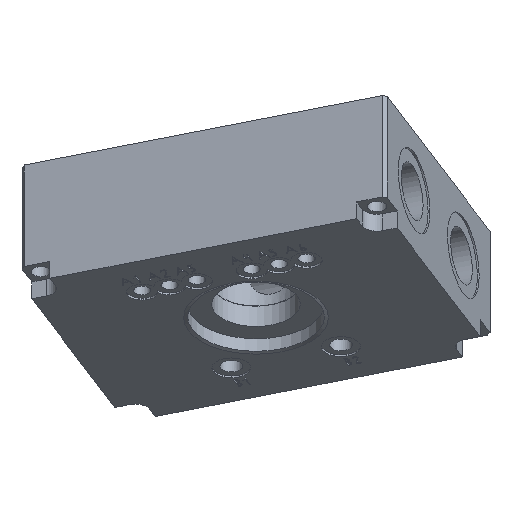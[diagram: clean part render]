
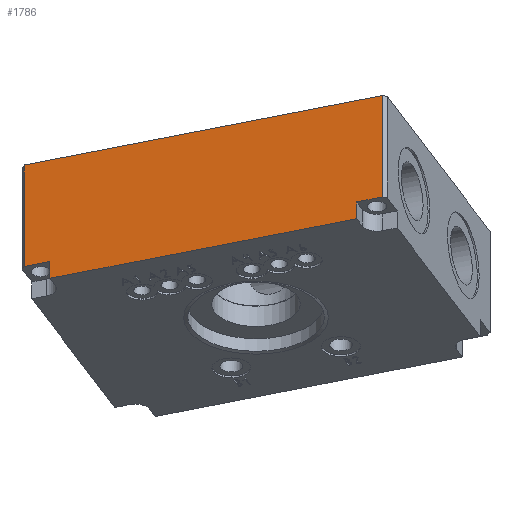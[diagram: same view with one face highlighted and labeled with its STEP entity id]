
A CAD part, top view. The second image highlights one B-rep face of the part: STEP entity #1786.
In plain terms, the highlighted planar face has unit normal (-0.359, 0.469, 0.807).
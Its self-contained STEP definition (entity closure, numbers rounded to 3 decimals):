
#47=CARTESIAN_POINT('',(903.288,186.817,355.398));
#48=VERTEX_POINT('',#47);
#163=CARTESIAN_POINT('',(1060.079,217.145,407.559));
#164=VERTEX_POINT('',#163);
#171=CARTESIAN_POINT('',(903.288,186.817,355.398));
#172=DIRECTION('',(0.933,0.181,0.31));
#173=VECTOR('',#172,1.);
#174=LINE('',#171,#173);
#175=EDGE_CURVE('',#48,#164,#174,.T.);
#1393=CARTESIAN_POINT('',(890.222,192.935,346.025));
#1394=VERTEX_POINT('',#1393);
#1401=CARTESIAN_POINT('',(890.222,244.805,315.867));
#1402=VERTEX_POINT('',#1401);
#1403=CARTESIAN_POINT('',(890.222,244.805,315.867));
#1404=DIRECTION('',(0.0,-0.864,0.503));
#1405=VECTOR('',#1404,1.);
#1406=LINE('',#1403,#1405);
#1407=EDGE_CURVE('',#1402,#1394,#1406,.T.);
#1519=CARTESIAN_POINT('',(1073.145,228.317,406.879));
#1520=VERTEX_POINT('',#1519);
#1521=CARTESIAN_POINT('',(1073.145,280.187,376.721));
#1522=VERTEX_POINT('',#1521);
#1523=CARTESIAN_POINT('',(1073.145,228.317,406.879));
#1524=DIRECTION('',(0.0,0.864,-0.503));
#1525=VECTOR('',#1524,1.);
#1526=LINE('',#1523,#1525);
#1527=EDGE_CURVE('',#1520,#1522,#1526,.T.);
#1742=CARTESIAN_POINT('',(1082.291,218.415,416.707));
#1743=DIRECTION('',(0.359,-0.469,-0.807));
#1744=DIRECTION('',(-0.933,-0.181,-0.31));
#1745=AXIS2_PLACEMENT_3D('',#1742,#1743,#1744);
#1746=PLANE('',#1745);
#1747=CARTESIAN_POINT('',(903.288,195.462,350.372));
#1748=VERTEX_POINT('',#1747);
#1749=CARTESIAN_POINT('',(903.288,195.462,350.372));
#1750=DIRECTION('',(-0.933,-0.181,-0.31));
#1751=VECTOR('',#1750,1.);
#1752=LINE('',#1749,#1751);
#1753=EDGE_CURVE('',#1748,#1394,#1752,.T.);
#1754=ORIENTED_EDGE('',*,*,#1753,.F.);
#1755=CARTESIAN_POINT('',(903.288,195.462,350.372));
#1756=DIRECTION('',(0.0,-0.864,0.503));
#1757=VECTOR('',#1756,1.);
#1758=LINE('',#1755,#1757);
#1759=EDGE_CURVE('',#1748,#48,#1758,.T.);
#1760=ORIENTED_EDGE('',*,*,#1759,.T.);
#1761=ORIENTED_EDGE('',*,*,#175,.T.);
#1762=CARTESIAN_POINT('',(1060.079,225.79,402.532));
#1763=VERTEX_POINT('',#1762);
#1764=CARTESIAN_POINT('',(1060.079,225.79,402.532));
#1765=DIRECTION('',(0.0,-0.864,0.503));
#1766=VECTOR('',#1765,1.);
#1767=LINE('',#1764,#1766);
#1768=EDGE_CURVE('',#1763,#164,#1767,.T.);
#1769=ORIENTED_EDGE('',*,*,#1768,.F.);
#1770=CARTESIAN_POINT('',(1073.145,228.317,406.879));
#1771=DIRECTION('',(-0.933,-0.181,-0.31));
#1772=VECTOR('',#1771,1.);
#1773=LINE('',#1770,#1772);
#1774=EDGE_CURVE('',#1520,#1763,#1773,.T.);
#1775=ORIENTED_EDGE('',*,*,#1774,.F.);
#1776=ORIENTED_EDGE('',*,*,#1527,.T.);
#1777=CARTESIAN_POINT('',(890.222,244.805,315.867));
#1778=DIRECTION('',(0.933,0.181,0.31));
#1779=VECTOR('',#1778,1.);
#1780=LINE('',#1777,#1779);
#1781=EDGE_CURVE('',#1402,#1522,#1780,.T.);
#1782=ORIENTED_EDGE('',*,*,#1781,.F.);
#1783=ORIENTED_EDGE('',*,*,#1407,.T.);
#1784=EDGE_LOOP('',(#1754,#1760,#1761,#1769,#1775,#1776,#1782,#1783));
#1785=FACE_OUTER_BOUND('',#1784,.T.);
#1786=ADVANCED_FACE('',(#1785),#1746,.F.);
